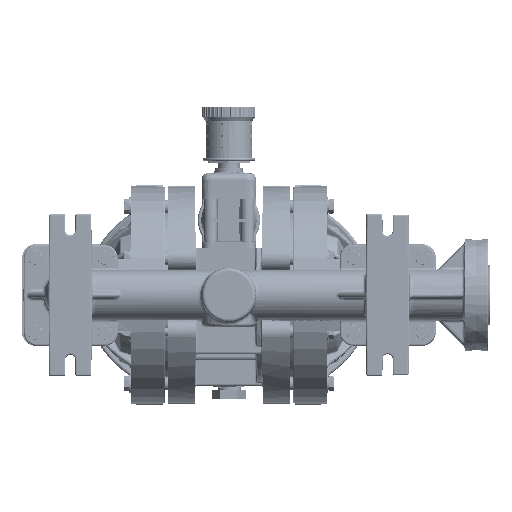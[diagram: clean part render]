
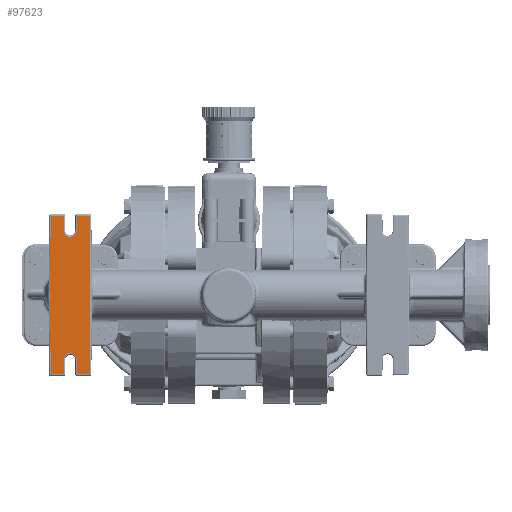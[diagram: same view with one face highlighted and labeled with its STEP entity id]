
A CAD part, front view. The second image highlights one B-rep face of the part: STEP entity #97623.
In plain terms, the highlighted planar face has unit normal (0, -1, 0).
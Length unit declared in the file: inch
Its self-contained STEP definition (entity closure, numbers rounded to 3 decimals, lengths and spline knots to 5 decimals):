
#2417 = CARTESIAN_POINT ( 'NONE',  ( -5.7875, -9.423, -2.45972 ) ) ;
#2714 = CARTESIAN_POINT ( 'NONE',  ( -5.78754, -9.423, -2.45535 ) ) ;
#9117 = DIRECTION ( 'NONE',  ( 1., 0., 0. ) ) ;
#10111 = VERTEX_POINT ( 'NONE', #162970 ) ;
#10422 = EDGE_CURVE ( 'NONE', #67924, #336404, #247120, .T. ) ;
#17046 = VERTEX_POINT ( 'NONE', #141891 ) ;
#35007 = EDGE_CURVE ( 'NONE', #290042, #346231, #67371, .T. ) ;
#36987 = ORIENTED_EDGE ( 'NONE', *, *, #377579, .T. ) ;
#38730 = ORIENTED_EDGE ( 'NONE', *, *, #137992, .T. ) ;
#49345 = DIRECTION ( 'NONE',  ( 0., 1., 0. ) ) ;
#67371 = LINE ( 'NONE', #213027, #104989 ) ;
#67450 = CARTESIAN_POINT ( 'NONE',  ( -6.2825, -9.423, -2.45972 ) ) ;
#67924 = VERTEX_POINT ( 'NONE', #73412 ) ;
#68944 = ORIENTED_EDGE ( 'NONE', *, *, #280894, .T. ) ;
#70864 = EDGE_CURVE ( 'NONE', #110407, #399946, #143997, .T. ) ;
#72332 = VECTOR ( 'NONE', #214960, 39.37008 ) ;
#73412 = CARTESIAN_POINT ( 'NONE',  ( -6.28246, -9.423, 2.45535 ) ) ;
#85362 = ORIENTED_EDGE ( 'NONE', *, *, #70864, .T. ) ;
#85413 = CARTESIAN_POINT ( 'NONE',  ( -6.035, -9.423, 2.46 ) ) ;
#87934 = DIRECTION ( 'NONE',  ( -0.009, 0., 1. ) ) ;
#88974 = CIRCLE ( 'NONE', #355726, 0.2475 ) ;
#91776 = DIRECTION ( 'NONE',  ( 0.009, 0., -1. ) ) ;
#93159 = EDGE_CURVE ( 'NONE', #346231, #10111, #165680, .T. ) ;
#93335 = AXIS2_PLACEMENT_3D ( 'NONE', #323866, #214099, #364334 ) ;
#97623 = ADVANCED_FACE ( 'NONE', ( #185778 ), #219218, .T. ) ;
#104989 = VECTOR ( 'NONE', #286958, 39.37008 ) ;
#106116 = DIRECTION ( 'NONE',  ( 0., 1., 0. ) ) ;
#110327 = DIRECTION ( 'NONE',  ( -0.009, 0., 1. ) ) ;
#110407 = VERTEX_POINT ( 'NONE', #189218 ) ;
#110434 = CARTESIAN_POINT ( 'NONE',  ( -6.2825, -9.423, 2.45972 ) ) ;
#110681 = ORIENTED_EDGE ( 'NONE', *, *, #403407, .T. ) ;
#112284 = AXIS2_PLACEMENT_3D ( 'NONE', #428320, #106116, #361470 ) ;
#112681 = EDGE_CURVE ( 'NONE', #405313, #321264, #140979, .T. ) ;
#112992 = VERTEX_POINT ( 'NONE', #285975 ) ;
#114095 = DIRECTION ( 'NONE',  ( 0., 0., -1. ) ) ;
#117318 = VECTOR ( 'NONE', #91776, 39.37008 ) ;
#123968 = VECTOR ( 'NONE', #172965, 39.37008 ) ;
#126630 = DIRECTION ( 'NONE',  ( 0.009, 0., 1. ) ) ;
#132621 = AXIS2_PLACEMENT_3D ( 'NONE', #85413, #154654, #197607 ) ;
#136959 = CARTESIAN_POINT ( 'NONE',  ( -5.78261, -9.423, -3.02 ) ) ;
#137992 = EDGE_CURVE ( 'NONE', #455621, #290042, #289356, .T. ) ;
#140979 = LINE ( 'NONE', #365172, #72332 ) ;
#141891 = CARTESIAN_POINT ( 'NONE',  ( -6.77864, -9.423, -3.02 ) ) ;
#143997 = LINE ( 'NONE', #136959, #374505 ) ;
#144248 = CARTESIAN_POINT ( 'NONE',  ( -5.29136, -9.423, -3.02 ) ) ;
#144830 = VECTOR ( 'NONE', #391828, 39.37008 ) ;
#154654 = DIRECTION ( 'NONE',  ( 0., 1., 0. ) ) ;
#162469 = LINE ( 'NONE', #308004, #270947 ) ;
#162970 = CARTESIAN_POINT ( 'NONE',  ( -5.7875, -9.423, 2.45972 ) ) ;
#165680 = LINE ( 'NONE', #311209, #395796 ) ;
#167539 = CARTESIAN_POINT ( 'NONE',  ( -5.78261, -9.423, 3.02 ) ) ;
#172965 = DIRECTION ( 'NONE',  ( -1., 0., 0. ) ) ;
#183168 = ORIENTED_EDGE ( 'NONE', *, *, #386120, .T. ) ;
#183438 = CARTESIAN_POINT ( 'NONE',  ( 0., -9.423, 0. ) ) ;
#185778 = FACE_OUTER_BOUND ( 'NONE', #348395, .T. ) ;
#189218 = CARTESIAN_POINT ( 'NONE',  ( -5.78261, -9.423, -3.02 ) ) ;
#190656 = CARTESIAN_POINT ( 'NONE',  ( -6.77864, -9.423, -3.02 ) ) ;
#195780 = CARTESIAN_POINT ( 'NONE',  ( -6.805, -9.423, 0. ) ) ;
#197607 = DIRECTION ( 'NONE',  ( 1., 0., -0.001 ) ) ;
#199228 = LINE ( 'NONE', #235037, #117318 ) ;
#210481 = CARTESIAN_POINT ( 'NONE',  ( -5.29136, -9.423, -3.02 ) ) ;
#213027 = CARTESIAN_POINT ( 'NONE',  ( -5.29136, -9.423, 3.02 ) ) ;
#214099 = DIRECTION ( 'NONE',  ( 0., 1., 0. ) ) ;
#214494 = ORIENTED_EDGE ( 'NONE', *, *, #338031, .T. ) ;
#214960 = DIRECTION ( 'NONE',  ( -0.009, 0., -1. ) ) ;
#218710 = EDGE_CURVE ( 'NONE', #371307, #431828, #436324, .T. ) ;
#219218 = PLANE ( 'NONE',  #464922 ) ;
#222637 = EDGE_CURVE ( 'NONE', #17046, #304414, #226455, .T. ) ;
#223947 = CARTESIAN_POINT ( 'NONE',  ( -5.29136, -9.423, 3.02 ) ) ;
#226455 = LINE ( 'NONE', #190656, #308622 ) ;
#235037 = CARTESIAN_POINT ( 'NONE',  ( -5.7875, -9.423, -2.45972 ) ) ;
#236316 = LINE ( 'NONE', #195780, #436007 ) ;
#247120 = CIRCLE ( 'NONE', #132621, 0.2475 ) ;
#253784 = DIRECTION ( 'NONE',  ( 1., 0., 0. ) ) ;
#254931 = ORIENTED_EDGE ( 'NONE', *, *, #271099, .T. ) ;
#260927 = EDGE_CURVE ( 'NONE', #112992, #405313, #421253, .T. ) ;
#264590 = CARTESIAN_POINT ( 'NONE',  ( -6.2825, -9.423, 2.45972 ) ) ;
#270947 = VECTOR ( 'NONE', #126630, 39.37008 ) ;
#271099 = EDGE_CURVE ( 'NONE', #10111, #67924, #88974, .T. ) ;
#273319 = ORIENTED_EDGE ( 'NONE', *, *, #10422, .T. ) ;
#275052 = CARTESIAN_POINT ( 'NONE',  ( -5.265, -9.423, 0. ) ) ;
#280265 = ORIENTED_EDGE ( 'NONE', *, *, #413011, .T. ) ;
#280452 = ORIENTED_EDGE ( 'NONE', *, *, #112681, .T. ) ;
#280894 = EDGE_CURVE ( 'NONE', #321264, #17046, #236316, .T. ) ;
#285975 = CARTESIAN_POINT ( 'NONE',  ( -6.28739, -9.423, 3.02 ) ) ;
#286244 = ORIENTED_EDGE ( 'NONE', *, *, #35007, .T. ) ;
#286958 = DIRECTION ( 'NONE',  ( -1., 0., 0. ) ) ;
#289356 = LINE ( 'NONE', #327517, #362960 ) ;
#290042 = VERTEX_POINT ( 'NONE', #223947 ) ;
#298426 = DIRECTION ( 'NONE',  ( 0.009, 0., -1. ) ) ;
#304414 = VERTEX_POINT ( 'NONE', #330455 ) ;
#308004 = CARTESIAN_POINT ( 'NONE',  ( -6.28739, -9.423, -3.02 ) ) ;
#308305 = CARTESIAN_POINT ( 'NONE',  ( -6.77864, -9.423, 3.02 ) ) ;
#308622 = VECTOR ( 'NONE', #9117, 39.37008 ) ;
#309857 = ORIENTED_EDGE ( 'NONE', *, *, #93159, .T. ) ;
#311209 = CARTESIAN_POINT ( 'NONE',  ( -5.78261, -9.423, 3.02 ) ) ;
#314901 = ORIENTED_EDGE ( 'NONE', *, *, #218710, .T. ) ;
#321264 = VERTEX_POINT ( 'NONE', #462854 ) ;
#323327 = VERTEX_POINT ( 'NONE', #2417 ) ;
#323866 = CARTESIAN_POINT ( 'NONE',  ( -6.035, -9.423, -2.46 ) ) ;
#327517 = CARTESIAN_POINT ( 'NONE',  ( -5.265, -9.423, 0. ) ) ;
#330455 = CARTESIAN_POINT ( 'NONE',  ( -6.28739, -9.423, -3.02 ) ) ;
#336404 = VERTEX_POINT ( 'NONE', #110434 ) ;
#338031 = EDGE_CURVE ( 'NONE', #323327, #110407, #199228, .T. ) ;
#340533 = DIRECTION ( 'NONE',  ( 1., 0., -0.001 ) ) ;
#346231 = VERTEX_POINT ( 'NONE', #167539 ) ;
#348395 = EDGE_LOOP ( 'NONE', ( #110681, #38730, #286244, #309857, #254931, #273319, #183168, #443041, #280452, #68944, #427428, #36987, #314901, #280265, #214494, #85362 ) ) ;
#355726 = AXIS2_PLACEMENT_3D ( 'NONE', #414484, #49345, #340533 ) ;
#361470 = DIRECTION ( 'NONE',  ( -1., 0., 0.001 ) ) ;
#362960 = VECTOR ( 'NONE', #110327, 39.37008 ) ;
#364334 = DIRECTION ( 'NONE',  ( -1., 0., 0.001 ) ) ;
#364748 = DIRECTION ( 'NONE',  ( 0., -1., 0. ) ) ;
#365172 = CARTESIAN_POINT ( 'NONE',  ( -6.77864, -9.423, 3.02 ) ) ;
#371307 = VERTEX_POINT ( 'NONE', #67450 ) ;
#374505 = VECTOR ( 'NONE', #253784, 39.37008 ) ;
#377579 = EDGE_CURVE ( 'NONE', #304414, #371307, #162469, .T. ) ;
#381414 = LINE ( 'NONE', #264590, #385488 ) ;
#385488 = VECTOR ( 'NONE', #87934, 39.37008 ) ;
#386120 = EDGE_CURVE ( 'NONE', #336404, #112992, #381414, .T. ) ;
#387782 = CARTESIAN_POINT ( 'NONE',  ( -6.28739, -9.423, 3.02 ) ) ;
#391828 = DIRECTION ( 'NONE',  ( 0.009, 0., 1. ) ) ;
#395796 = VECTOR ( 'NONE', #420952, 39.37008 ) ;
#399946 = VERTEX_POINT ( 'NONE', #144248 ) ;
#403407 = EDGE_CURVE ( 'NONE', #399946, #455621, #437031, .T. ) ;
#405313 = VERTEX_POINT ( 'NONE', #308305 ) ;
#413011 = EDGE_CURVE ( 'NONE', #431828, #323327, #417263, .T. ) ;
#414484 = CARTESIAN_POINT ( 'NONE',  ( -6.035, -9.423, 2.46 ) ) ;
#417263 = CIRCLE ( 'NONE', #112284, 0.2475 ) ;
#420952 = DIRECTION ( 'NONE',  ( -0.009, 0., -1. ) ) ;
#421253 = LINE ( 'NONE', #387782, #123968 ) ;
#427428 = ORIENTED_EDGE ( 'NONE', *, *, #222637, .T. ) ;
#428320 = CARTESIAN_POINT ( 'NONE',  ( -6.035, -9.423, -2.46 ) ) ;
#431828 = VERTEX_POINT ( 'NONE', #2714 ) ;
#436007 = VECTOR ( 'NONE', #298426, 39.37008 ) ;
#436324 = CIRCLE ( 'NONE', #93335, 0.2475 ) ;
#437031 = LINE ( 'NONE', #210481, #144830 ) ;
#443041 = ORIENTED_EDGE ( 'NONE', *, *, #260927, .T. ) ;
#455621 = VERTEX_POINT ( 'NONE', #275052 ) ;
#462854 = CARTESIAN_POINT ( 'NONE',  ( -6.805, -9.423, 0. ) ) ;
#464922 = AXIS2_PLACEMENT_3D ( 'NONE', #183438, #364748, #114095 ) ;
